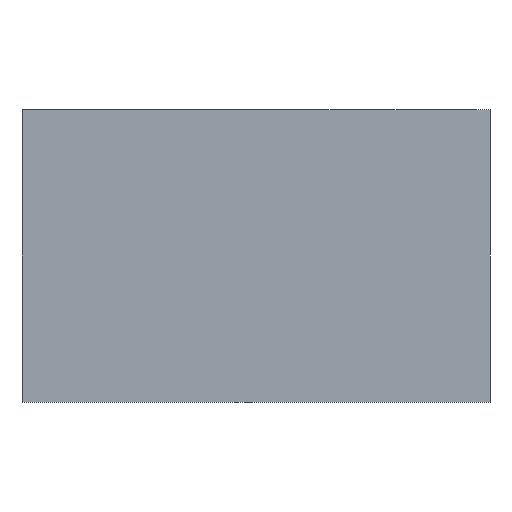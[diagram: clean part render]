
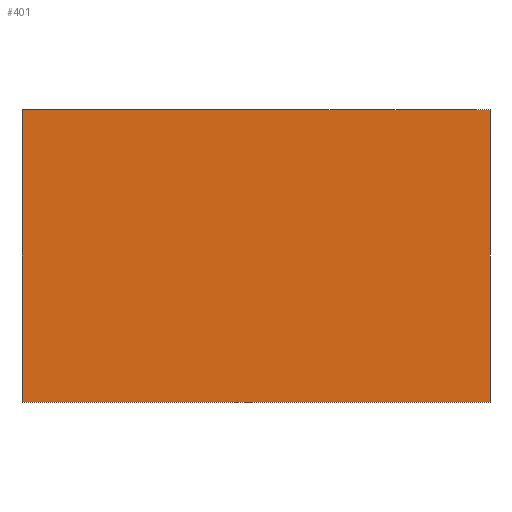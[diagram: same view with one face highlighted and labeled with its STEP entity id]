
A CAD part, left-side view. The second image highlights one B-rep face of the part: STEP entity #401.
In plain terms, the highlighted planar face has unit normal (-1, 0, 0).
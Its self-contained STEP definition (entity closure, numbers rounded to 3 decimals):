
#68=FACE_OUTER_BOUND('',#100,.T.);
#100=EDGE_LOOP('',(#283,#284,#285,#286));
#145=LINE('',#617,#170);
#148=LINE('',#623,#173);
#149=LINE('',#625,#174);
#150=LINE('',#626,#175);
#170=VECTOR('',#497,10.);
#173=VECTOR('',#502,10.);
#174=VECTOR('',#503,10.);
#175=VECTOR('',#504,10.);
#194=VERTEX_POINT('',#613);
#196=VERTEX_POINT('',#616);
#198=VERTEX_POINT('',#622);
#199=VERTEX_POINT('',#624);
#229=EDGE_CURVE('',#196,#194,#145,.T.);
#232=EDGE_CURVE('',#194,#198,#148,.T.);
#233=EDGE_CURVE('',#199,#198,#149,.T.);
#234=EDGE_CURVE('',#196,#199,#150,.T.);
#283=ORIENTED_EDGE('',*,*,#229,.T.);
#284=ORIENTED_EDGE('',*,*,#232,.T.);
#285=ORIENTED_EDGE('',*,*,#233,.F.);
#286=ORIENTED_EDGE('',*,*,#234,.F.);
#382=PLANE('',#447);
#401=ADVANCED_FACE('',(#68),#382,.T.);
#447=AXIS2_PLACEMENT_3D('',#621,#500,#501);
#497=DIRECTION('',(0.,-1.,0.));
#500=DIRECTION('center_axis',(-1.,0.,0.));
#501=DIRECTION('ref_axis',(0.,-1.,0.));
#502=DIRECTION('',(0.,0.,1.));
#503=DIRECTION('',(0.,-1.,0.));
#504=DIRECTION('',(0.,0.,1.));
#613=CARTESIAN_POINT('',(-40.,-40.,2.));
#616=CARTESIAN_POINT('',(-40.,40.,2.));
#617=CARTESIAN_POINT('',(-40.,3.75,2.));
#621=CARTESIAN_POINT('Origin',(-40.,40.,0.));
#622=CARTESIAN_POINT('',(-40.,-40.,52.));
#623=CARTESIAN_POINT('',(-40.,-40.,0.));
#624=CARTESIAN_POINT('',(-40.,40.,52.));
#625=CARTESIAN_POINT('',(-40.,-40.,52.));
#626=CARTESIAN_POINT('',(-40.,40.,0.));
